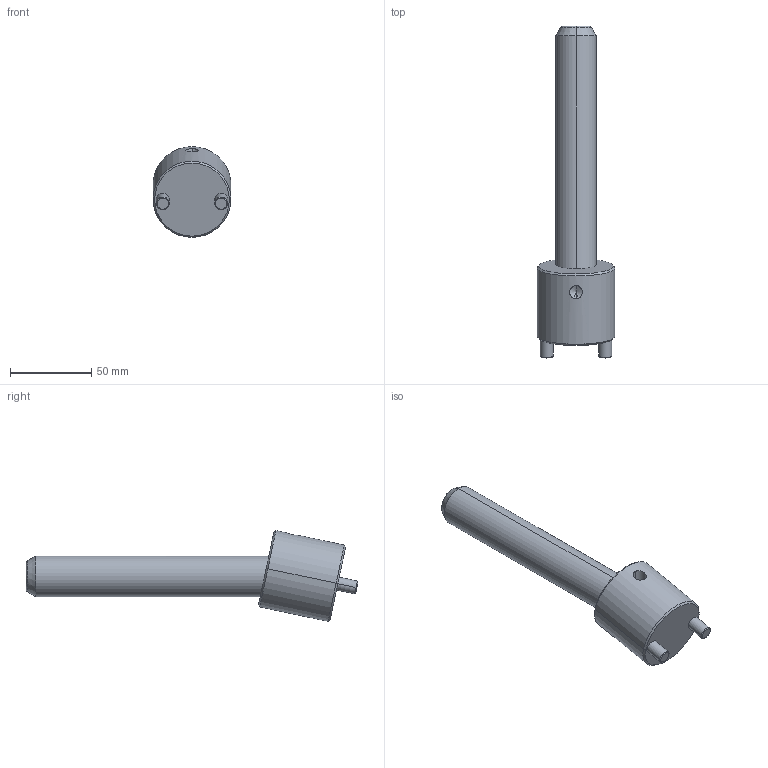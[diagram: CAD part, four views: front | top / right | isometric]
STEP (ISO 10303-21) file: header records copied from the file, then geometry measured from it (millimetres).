
FILE_DESCRIPTION((''),'2;1');
FILE_NAME('CO1225150_ASM','2018-01-20T',('MANU'),(''),'PRO/ENGINEER BY PARAMETRIC TECHNOLOGY CORPORATION, 2012130','PRO/ENGINEER BY PARAMETRIC TECHNOLOGY CORPORATION, 2012130','');
FILE_SCHEMA(('CONFIG_CONTROL_DESIGN'));
Length unit declared in the file: millimetre
Products named in the file (3): CP25150; CS1225; CO1225150_ASM
Assembly tree (2 placements, depth 2):
  CO1225150_ASM
    CP25150
    CS1225
Bounding box: 48 x 204.52 x 55.89 mm (x, y, z)
Volume: 152722.9 mm3; surface area: 29369.5 mm2
Topology: 2 solids, 2 shells, 37 faces, 76 edges, 43 vertices
Faces by surface type: cone 14, cylinder 14, plane 7, torus 2
Entity records: 1200 total; most frequent: CARTESIAN_POINT 331, DIRECTION 186, ORIENTED_EDGE 148, AXIS2_PLACEMENT_3D 78, EDGE_CURVE 74, VERTEX_POINT 43, EDGE_LOOP 41, FACE_OUTER_BOUND 37
